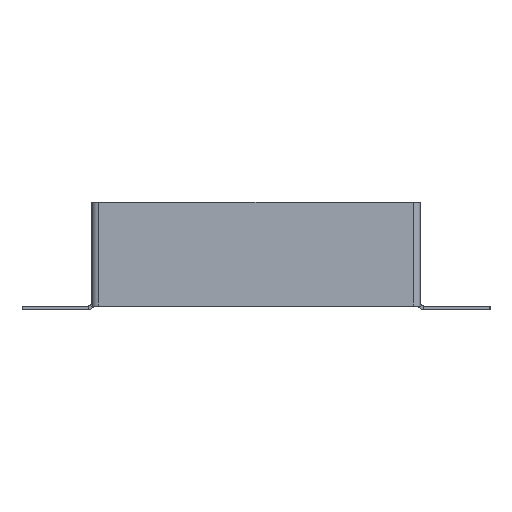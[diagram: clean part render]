
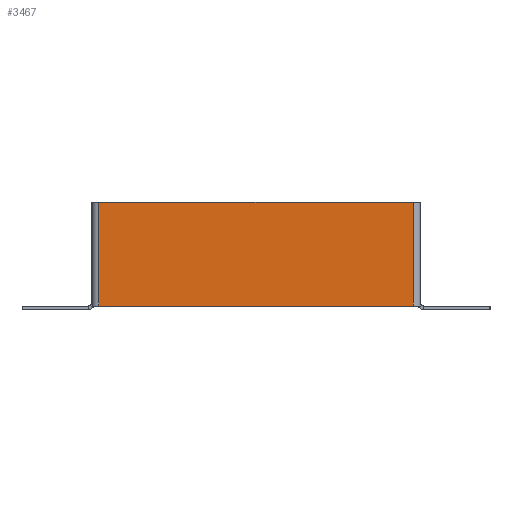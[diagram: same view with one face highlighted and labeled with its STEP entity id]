
A CAD part, front view. The second image highlights one B-rep face of the part: STEP entity #3467.
In plain terms, the highlighted planar face has unit normal (0, -1, 0).
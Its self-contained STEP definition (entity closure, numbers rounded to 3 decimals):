
#11 = VERTEX_POINT ( 'NONE', #1705 ) ;
#215 = CARTESIAN_POINT ( 'NONE',  ( 88., -2., 0. ) ) ;
#247 = VERTEX_POINT ( 'NONE', #5716 ) ;
#384 = DIRECTION ( 'NONE',  ( 0., 0., -1. ) ) ;
#471 = VECTOR ( 'NONE', #4752, 1000. ) ;
#627 = LINE ( 'NONE', #2322, #1858 ) ;
#978 = FACE_OUTER_BOUND ( 'NONE', #1489, .T. ) ;
#1468 = LINE ( 'NONE', #2224, #471 ) ;
#1489 = EDGE_LOOP ( 'NONE', ( #5306, #1494, #5905, #4160 ) ) ;
#1494 = ORIENTED_EDGE ( 'NONE', *, *, #2404, .F. ) ;
#1560 = LINE ( 'NONE', #4056, #5849 ) ;
#1602 = VECTOR ( 'NONE', #3800, 1000. ) ;
#1705 = CARTESIAN_POINT ( 'NONE',  ( -88., -2., 0. ) ) ;
#1858 = VECTOR ( 'NONE', #384, 1000. ) ;
#2224 = CARTESIAN_POINT ( 'NONE',  ( -90., -2., 0. ) ) ;
#2284 = CARTESIAN_POINT ( 'NONE',  ( 88., -2., -58. ) ) ;
#2322 = CARTESIAN_POINT ( 'NONE',  ( -88., -2., 0. ) ) ;
#2404 = EDGE_CURVE ( 'NONE', #4660, #247, #1560, .T. ) ;
#2693 = PLANE ( 'NONE',  #3661 ) ;
#2724 = VERTEX_POINT ( 'NONE', #215 ) ;
#2809 = EDGE_CURVE ( 'NONE', #4660, #2724, #5460, .T. ) ;
#3094 = CARTESIAN_POINT ( 'NONE',  ( 88., -2., -58. ) ) ;
#3467 = ADVANCED_FACE ( 'NONE', ( #978 ), #2693, .F. ) ;
#3661 = AXIS2_PLACEMENT_3D ( 'NONE', #5553, #4591, #6044 ) ;
#3800 = DIRECTION ( 'NONE',  ( 0., 0., 1. ) ) ;
#4056 = CARTESIAN_POINT ( 'NONE',  ( -90., -2., -58. ) ) ;
#4160 = ORIENTED_EDGE ( 'NONE', *, *, #4914, .F. ) ;
#4526 = DIRECTION ( 'NONE',  ( -1., 0., 0. ) ) ;
#4591 = DIRECTION ( 'NONE',  ( 0., 1., 0. ) ) ;
#4660 = VERTEX_POINT ( 'NONE', #3094 ) ;
#4752 = DIRECTION ( 'NONE',  ( 1., 0., 0. ) ) ;
#4914 = EDGE_CURVE ( 'NONE', #11, #2724, #1468, .T. ) ;
#4926 = EDGE_CURVE ( 'NONE', #11, #247, #627, .T. ) ;
#5306 = ORIENTED_EDGE ( 'NONE', *, *, #4926, .T. ) ;
#5460 = LINE ( 'NONE', #2284, #1602 ) ;
#5553 = CARTESIAN_POINT ( 'NONE',  ( 0., -2., 0. ) ) ;
#5716 = CARTESIAN_POINT ( 'NONE',  ( -88., -2., -58. ) ) ;
#5849 = VECTOR ( 'NONE', #4526, 1000. ) ;
#5905 = ORIENTED_EDGE ( 'NONE', *, *, #2809, .T. ) ;
#6044 = DIRECTION ( 'NONE',  ( 0., 0., 1. ) ) ;
